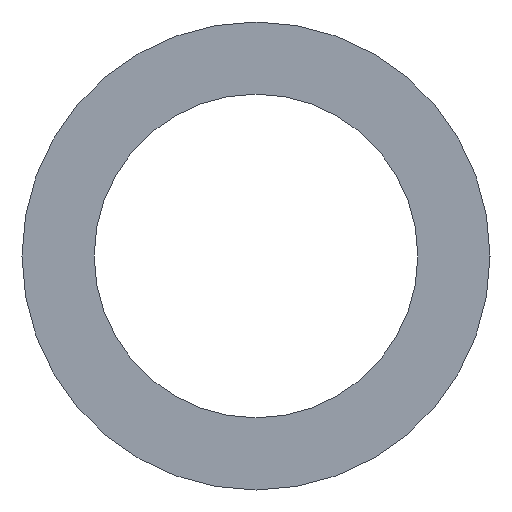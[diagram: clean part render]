
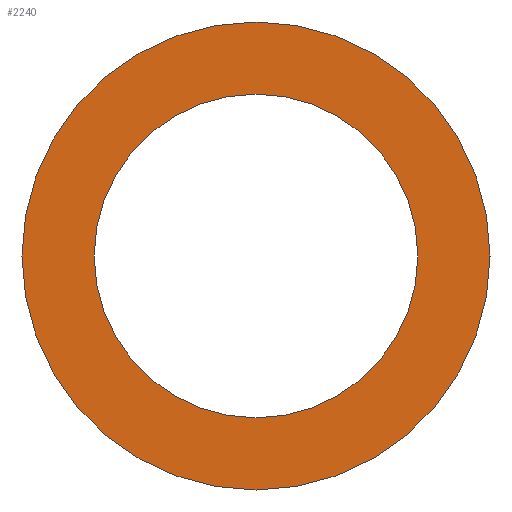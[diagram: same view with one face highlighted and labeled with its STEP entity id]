
A CAD part, left-side view. The second image highlights one B-rep face of the part: STEP entity #2240.
In plain terms, the highlighted planar face has unit normal (-1, 0, 0).
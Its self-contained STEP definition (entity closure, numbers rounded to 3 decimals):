
#460=CARTESIAN_POINT('',(11.051,57.857,0.));
#470=VERTEX_POINT('',#460);
#550=CARTESIAN_POINT('',(11.051,35.657,0.));
#560=VERTEX_POINT('',#550);
#590=CARTESIAN_POINT('',(11.051,46.757,0.));
#600=DIRECTION('',(1.,0.,-0.));
#610=DIRECTION('',(0.,1.,0.));
#620=AXIS2_PLACEMENT_3D('',#590,#600,#610);
#630=CIRCLE('',#620,11.1);
#640=EDGE_CURVE('',#560,#470,#630,.T.);
#1990=CARTESIAN_POINT('',(11.051,32.257,0.));
#2000=DIRECTION('',(1.,0.,0.));
#2010=DIRECTION('',(0.,-1.,0.));
#2020=AXIS2_PLACEMENT_3D('',#1990,#2000,#2010);
#2030=PLANE('',#2020);
#2040=EDGE_CURVE('',#470,#560,#630,.T.);
#2050=ORIENTED_EDGE('',*,*,#2040,.T.);
#2060=ORIENTED_EDGE('',*,*,#640,.T.);
#2070=EDGE_LOOP('',(#2060,#2050));
#2080=FACE_BOUND('',#2070,.T.);
#2090=CARTESIAN_POINT('',(11.051,46.757,0.));
#2100=DIRECTION('',(1.,0.,-0.));
#2110=DIRECTION('',(0.,-1.,0.));
#2120=AXIS2_PLACEMENT_3D('',#2090,#2100,#2110);
#2130=CIRCLE('',#2120,16.05);
#2140=CARTESIAN_POINT('',(11.051,30.707,0.));
#2150=VERTEX_POINT('',#2140);
#2160=CARTESIAN_POINT('',(11.051,62.807,0.));
#2170=VERTEX_POINT('',#2160);
#2180=EDGE_CURVE('',#2150,#2170,#2130,.T.);
#2190=ORIENTED_EDGE('',*,*,#2180,.F.);
#2200=EDGE_CURVE('',#2170,#2150,#2130,.T.);
#2210=ORIENTED_EDGE('',*,*,#2200,.F.);
#2220=EDGE_LOOP('',(#2210,#2190));
#2230=FACE_OUTER_BOUND('',#2220,.T.);
#2240=ADVANCED_FACE('',(#2080,#2230),#2030,.F.);
